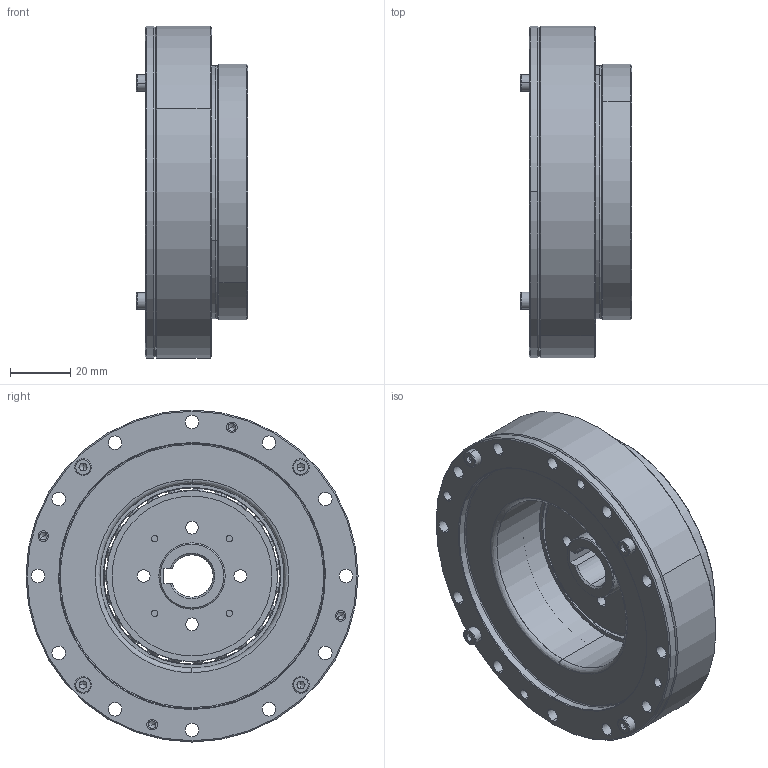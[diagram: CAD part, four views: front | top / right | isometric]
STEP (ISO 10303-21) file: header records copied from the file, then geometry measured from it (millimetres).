
FILE_DESCRIPTION (( 'STEP AP203' ), '1' );
FILE_NAME ('LHS-25-XXX-C-I.step', '2025-01-07T06:18:35', ( '' ), ( '' ), 'SwSTEP 2.0', 'SolidWorks 2023', '' );
FILE_SCHEMA (( 'CONFIG_CONTROL_DESIGN' ));
Length unit declared in the file: metre
Products named in the file (1): LHS-25-XXX-C-I
Bounding box: 37 x 110 x 110 mm (x, y, z)
Volume: 152860.3 mm3; surface area: 112011.3 mm2
Topology: 45 solids, 45 shells, 1042 faces, 2554 edges, 1498 vertices
Faces by surface type: cylinder 397, plane 301, cone 208, bspline 136
Entity records: 33568 total; most frequent: CARTESIAN_POINT 9413, DIRECTION 5360, ORIENTED_EDGE 4764, EDGE_CURVE 2382, AXIS2_PLACEMENT_3D 2199, VERTEX_POINT 1498, CIRCLE 1292, EDGE_LOOP 1274
